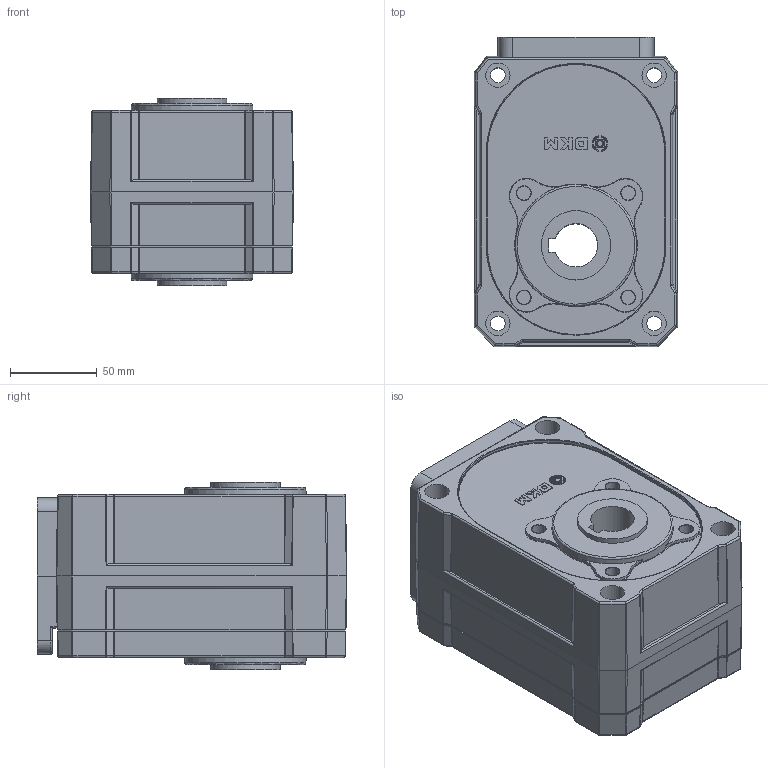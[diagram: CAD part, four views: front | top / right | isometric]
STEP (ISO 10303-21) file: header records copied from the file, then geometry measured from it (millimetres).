
FILE_DESCRIPTION (( 'STEP AP203' ), '1' );
FILE_NAME ('090L 橫撬綰葬.STEP', '2020-04-21T00:37:24', ( '' ), ( '' ), 'SwSTEP 2.0', 'SolidWorks 2012', '' );
FILE_SCHEMA (( 'CONFIG_CONTROL_DESIGN' ));
Length unit declared in the file: millimetre
Products named in the file (4): 090L 橫撬綰葬; 9HCS; 90L-COVER; 90L-CASE
Assembly tree (3 placements, depth 2):
  090L 橫撬綰葬
    90L-CASE
    90L-COVER
    9HCS
Bounding box: 117 x 178.5 x 108 mm (x, y, z)
Volume: 1706148.6 mm3; surface area: 196261.2 mm2
Topology: 3 solids, 7 shells, 634 faces, 1636 edges, 1031 vertices
Faces by surface type: plane 268, cylinder 236, bspline 87, cone 43
Full cylindrical faces by diameter (mm): 3.237 x2, 4.271 x2, 6 x8, 8 x4, 8.5 x4, 14 x8, 40 x3, 83 x1
Entity records: 25337 total; most frequent: CARTESIAN_POINT 11134, ORIENTED_EDGE 3022, DIRECTION 2494, EDGE_CURVE 1511, VERTEX_POINT 998, AXIS2_PLACEMENT_3D 847, LINE 800, VECTOR 800
